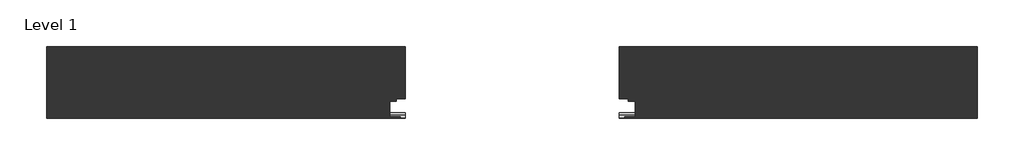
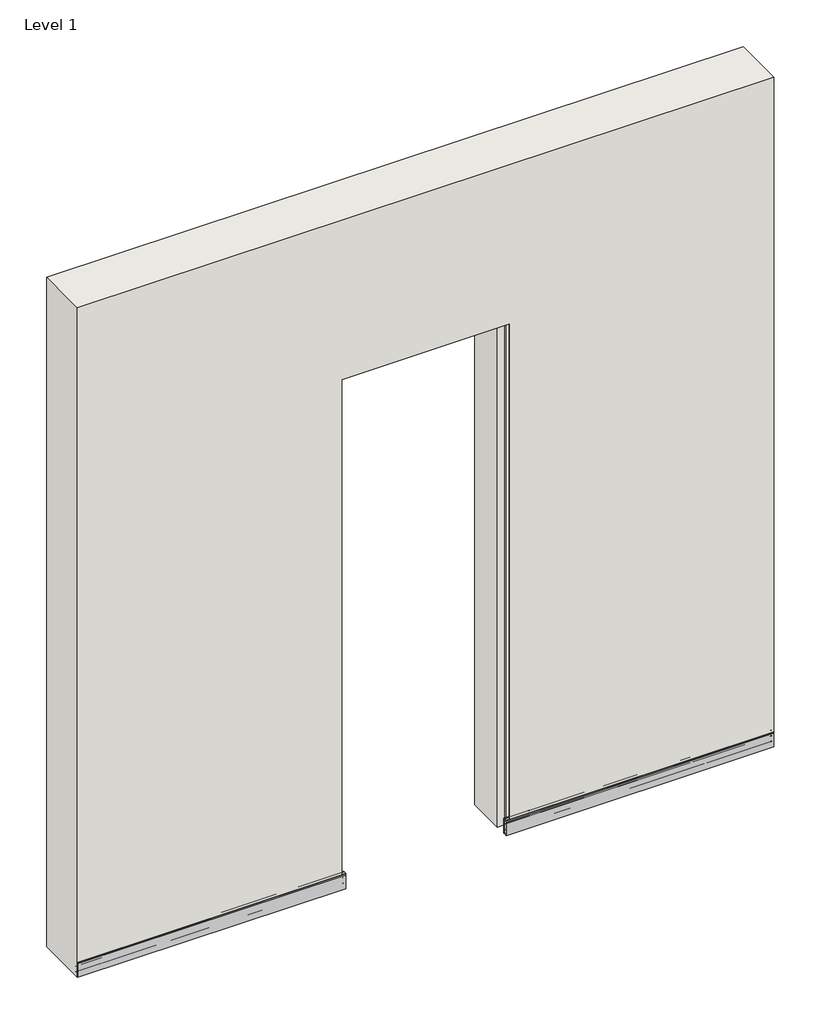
# One storey, incomplete: 2 proxies, 1 wall.
"""IFC4 building model written with IfcOpenShell, lengths in millimetres."""

from ifc_helpers import new_model, si_unit, origin, place, context, project, spatial, faceted_brep, transform, mapped, element, save
from components import generic_models_89d77330

model = new_model("IFC4")

# Units and contexts
model_context = context("Model", 3, world=origin())
ifc_project = project(units=[si_unit("LENGTHUNIT", "METRE", prefix="MILLI")], contexts=[model_context])

# Site, building, storey
site = spatial("IfcSite", under=ifc_project)
building = spatial("IfcBuilding", under=site)
storey = spatial("IfcBuildingStorey", under=building, Name="Level 1", Elevation=0.0)

# Proxies
placement = place(None, origin())
generic_models_shape = generic_models_89d77330(model_context)
element("IfcBuildingElementProxy", 1, Name="BATTISCOPA : BATTISCOPA", ObjectType="BATTISCOPA : BATTISCOPA", at=placement, inside=storey, context=model_context, shape_type="MappedRepresentation", body=[
    mapped(generic_models_shape, transform((-3019.8885133, 196.9305817, 0.0), x_axis=(1.0, 0.0, 0.0), y_axis=(0.0, 0.0, 1.0), z_axis=(0.0, -1.0, 0.0))),
])
element("IfcBuildingElementProxy", 2, Name="BATTISCOPA : BATTISCOPA", ObjectType="BATTISCOPA : BATTISCOPA", at=placement, inside=storey, context=model_context, shape_type="MappedRepresentation", body=[
    mapped(generic_models_shape, transform((-4618.2885821, 196.9305817, 0.0), x_axis=(1.0, 0.0, 0.0), y_axis=(0.0, 0.0, 1.0), z_axis=(0.0, -1.0, 0.0))),
])

# Wall
element("IfcWall", 3, ObjectType="Generic - 200mm", at=placement, inside=storey, context=model_context, shape_type="Brep", body=[
    faceted_brep([(-2519.8885133, 196.9305817, 2642.3945659), (-5119.8885133, 196.9305817, 2642.3945659), (-5119.8885133, 196.9305817, 0.0), (-5118.2885821, 196.9305817, 0.0), (-5118.2885821, 196.9305817, 60.0), (-4132.5885821, 196.9305817, 60.0), (-4132.5885821, 196.9305817, 2014.0000344), (-3505.5885133, 196.9305817, 2014.0000344), (-3505.5885133, 196.9305817, 60.0), (-2519.8885133, 196.9305817, 60.0), (-2519.8885133, 396.9305817, 2642.3945659), (-2519.8885133, 396.9305817, 0.0), (-3520.5885477, 396.9305817, 0.0), (-3520.5885477, 396.9305817, 1999.0), (-4117.5885477, 396.9305817, 1999.0), (-4117.5885477, 396.9305817, 0.0), (-5119.8885133, 396.9305817, 0.0), (-5119.8885133, 396.9305817, 2642.3945659), (-4117.5885477, 251.4305817, 0.0), (-4143.5885641, 251.4305817, 0.0), (-4143.5885641, 243.93058, 0.0), (-4161.8885477, 243.93058, 0.0), (-4161.8885477, 211.9305817, 0.0), (-5118.2885821, 211.9305817, 0.0), (-2519.8885133, 211.9305817, 0.0), (-3476.2885477, 211.9305817, 0.0), (-3476.2885477, 243.93058, 0.0), (-3494.5885313, 243.93058, 0.0), (-3494.5885313, 251.4305817, 0.0), (-3520.5885477, 251.4305817, 0.0), (-2519.8885133, 211.9305817, 60.0), (-4117.5885477, 251.4305817, 1999.0), (-3520.5885477, 251.4305817, 1999.0), (-3476.2885477, 211.9305817, 60.0), (-3505.5885133, 201.4305817, 60.0), (-3476.2885477, 201.4305817, 60.0), (-5118.2885821, 211.9305817, 60.0), (-4161.8885477, 211.9305817, 60.0), (-4161.8885477, 201.4305817, 60.0), (-4132.5885821, 201.4305817, 60.0), (-4132.5885821, 201.4305817, 2014.0000344), (-4143.5885641, 251.4305817, 2025.0000164), (-3494.5885313, 251.4305817, 2025.0000164), (-4143.5885641, 243.93058, 2025.0000164), (-3494.5885313, 243.93058, 2025.0000164), (-3476.2885477, 243.93058, 2043.3), (-4161.8885477, 243.93058, 2043.3), (-4161.8885477, 201.4305817, 2043.3), (-3505.5885133, 201.4305817, 2014.0000344), (-3476.2885477, 201.4305817, 2043.3)], [[[0, 1, 2, 3, 4, 5, 6, 7, 8, 9]], [[10, 11, 12, 13, 14, 15, 16, 17]], [[2, 16, 15, 18, 19, 20, 21, 22, 23, 3]], [[12, 11, 24, 25, 26, 27, 28, 29]], [[11, 10, 0, 9, 30, 24]], [[1, 0, 10, 17]], [[2, 1, 17, 16]], [[15, 14, 31, 18]], [[14, 13, 32, 31]], [[13, 12, 29, 32]], [[25, 24, 30, 33]], [[9, 8, 34, 35, 33, 30]], [[23, 36, 4, 3]], [[36, 23, 22, 37]], [[4, 36, 37, 38, 39, 5]], [[40, 6, 5, 39]], [[41, 19, 18, 31, 32, 29, 28, 42]], [[19, 41, 43, 20]], [[20, 43, 44, 27, 26, 45, 46, 21]], [[21, 46, 47, 38, 37, 22]], [[48, 40, 39, 38, 47, 49, 35, 34]], [[6, 40, 48, 7]], [[41, 42, 44, 43]], [[46, 45, 49, 47]], [[7, 48, 34, 8]], [[42, 28, 27, 44]], [[45, 26, 25, 33, 35, 49]]]),
])

save(model, "model.ifc")
